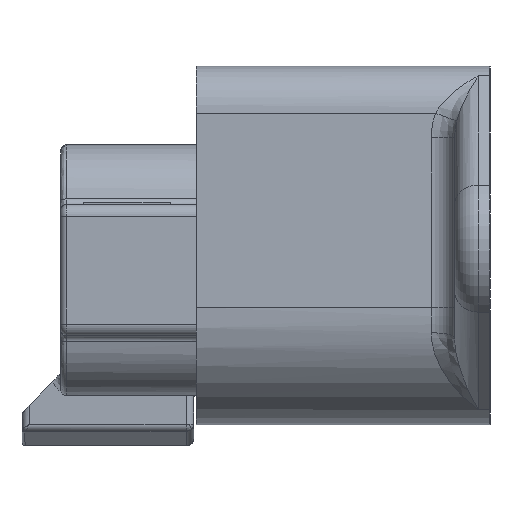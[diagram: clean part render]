
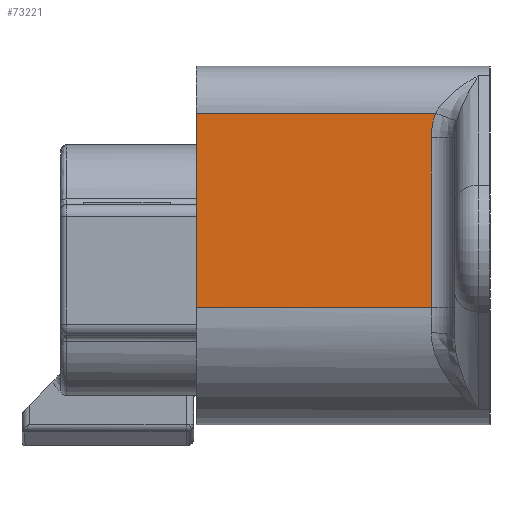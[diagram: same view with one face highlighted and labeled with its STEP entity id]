
A CAD part, left-side view. The second image highlights one B-rep face of the part: STEP entity #73221.
In plain terms, the highlighted planar face has unit normal (-1, 0, 0).
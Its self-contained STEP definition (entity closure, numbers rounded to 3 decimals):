
#2363 = DIRECTION ( 'NONE',  ( -1., 0., 0. ) ) ;
#6080 = DIRECTION ( 'NONE',  ( 0., -1., 0. ) ) ;
#7660 = DIRECTION ( 'NONE',  ( 0., 0., 1. ) ) ;
#9247 = CARTESIAN_POINT ( 'NONE',  ( -27.988, -21.073, -3.5 ) ) ;
#15857 = EDGE_CURVE ( 'NONE', #34761, #156409, #132082, .T. ) ;
#19240 = ORIENTED_EDGE ( 'NONE', *, *, #139909, .F. ) ;
#26283 = LINE ( 'NONE', #122655, #161194 ) ;
#29898 = CARTESIAN_POINT ( 'NONE',  ( -27.988, -5.918, -3.5 ) ) ;
#34761 = VERTEX_POINT ( 'NONE', #29898 ) ;
#35496 = AXIS2_PLACEMENT_3D ( 'NONE', #41316, #2363, #93758 ) ;
#35597 = CARTESIAN_POINT ( 'NONE',  ( -27.988, -21.786, -3.623 ) ) ;
#35741 = CARTESIAN_POINT ( 'NONE',  ( -27.988, -22.449, -3.864 ) ) ;
#40143 = VECTOR ( 'NONE', #7660, 1000. ) ;
#41316 = CARTESIAN_POINT ( 'NONE',  ( -27.988, -5.918, -5.5 ) ) ;
#42641 = ORIENTED_EDGE ( 'NONE', *, *, #128794, .T. ) ;
#46615 = CARTESIAN_POINT ( 'NONE',  ( -27.988, -22.449, -3.5 ) ) ;
#50002 =( BOUNDED_CURVE ( )  B_SPLINE_CURVE ( 3, ( #100627, #9247, #35597, #126917 ),
 .UNSPECIFIED., .F., .F. ) 
 B_SPLINE_CURVE_WITH_KNOTS ( ( 4, 4 ),
 ( 1.571, 2.001 ),
 .UNSPECIFIED. ) 
 CURVE ( )  GEOMETRIC_REPRESENTATION_ITEM ( )  RATIONAL_B_SPLINE_CURVE ( ( 1., 0.985, 0.985, 1. ) ) 
 REPRESENTATION_ITEM ( '' )  );
#57047 = CARTESIAN_POINT ( 'NONE',  ( -27.988, -5.918, -5.5 ) ) ;
#59674 = CARTESIAN_POINT ( 'NONE',  ( -27.988, -22.449, 16.5 ) ) ;
#59761 = DIRECTION ( 'NONE',  ( 0., -1., 0. ) ) ;
#66710 = EDGE_LOOP ( 'NONE', ( #112733, #74218, #42641, #19240, #155667 ) ) ;
#73221 = ADVANCED_FACE ( 'NONE', ( #87417 ), #80104, .T. ) ;
#74218 = ORIENTED_EDGE ( 'NONE', *, *, #76904, .T. ) ;
#76904 = EDGE_CURVE ( 'NONE', #126038, #116716, #50002, .T. ) ;
#80104 = PLANE ( 'NONE',  #35496 ) ;
#87417 = FACE_OUTER_BOUND ( 'NONE', #66710, .T. ) ;
#93758 = DIRECTION ( 'NONE',  ( 0., -1., 0. ) ) ;
#98343 = CARTESIAN_POINT ( 'NONE',  ( -27.988, -5.918, 16.5 ) ) ;
#100627 = CARTESIAN_POINT ( 'NONE',  ( -27.988, -20.343, -3.5 ) ) ;
#101434 = VECTOR ( 'NONE', #161442, 1000. ) ;
#109666 = VERTEX_POINT ( 'NONE', #59674 ) ;
#112733 = ORIENTED_EDGE ( 'NONE', *, *, #117857, .T. ) ;
#116716 = VERTEX_POINT ( 'NONE', #35741 ) ;
#117857 = EDGE_CURVE ( 'NONE', #34761, #126038, #128532, .T. ) ;
#122655 = CARTESIAN_POINT ( 'NONE',  ( -27.988, -5.918, 16.5 ) ) ;
#126038 = VERTEX_POINT ( 'NONE', #140861 ) ;
#126917 = CARTESIAN_POINT ( 'NONE',  ( -27.988, -22.449, -3.864 ) ) ;
#128532 = LINE ( 'NONE', #46615, #159254 ) ;
#128794 = EDGE_CURVE ( 'NONE', #116716, #109666, #144321, .T. ) ;
#132082 = LINE ( 'NONE', #57047, #101434 ) ;
#139909 = EDGE_CURVE ( 'NONE', #156409, #109666, #26283, .T. ) ;
#140861 = CARTESIAN_POINT ( 'NONE',  ( -27.988, -20.343, -3.5 ) ) ;
#144321 = LINE ( 'NONE', #164199, #40143 ) ;
#155667 = ORIENTED_EDGE ( 'NONE', *, *, #15857, .F. ) ;
#156409 = VERTEX_POINT ( 'NONE', #98343 ) ;
#159254 = VECTOR ( 'NONE', #59761, 1000. ) ;
#161194 = VECTOR ( 'NONE', #6080, 1000. ) ;
#161442 = DIRECTION ( 'NONE',  ( 0., 0., 1. ) ) ;
#164199 = CARTESIAN_POINT ( 'NONE',  ( -27.988, -22.449, -5.5 ) ) ;
